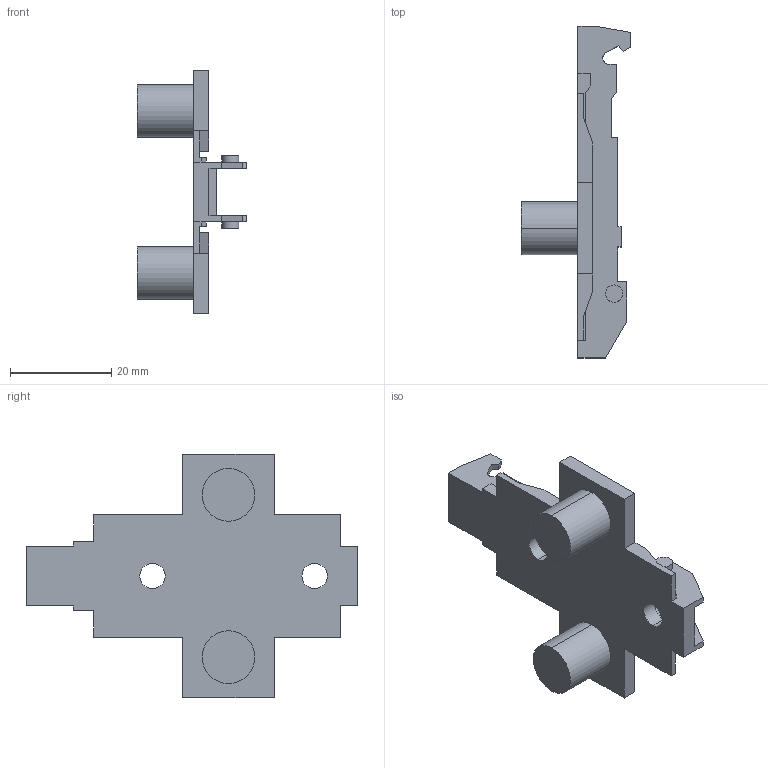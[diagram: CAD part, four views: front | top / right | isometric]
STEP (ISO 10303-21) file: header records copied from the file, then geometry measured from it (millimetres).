
FILE_DESCRIPTION (( 'STEP AP214' ), '1' );
FILE_NAME ('1D_Kreuzmontageplatte 37_32_10mm_Dübel_0.step', '2010-11-18T10:18:19', ( 'grass' ), ( '' ), 'SwSTEP 2.0', 'SolidWorks 2010', '' );
FILE_SCHEMA (( 'AUTOMOTIVE_DESIGN' ));
Length unit declared in the file: millimetre
Products named in the file (1): 1D_Kreuzmontageplatte 37_32_10mm_Dübel_0
Bounding box: 21.7 x 65.5 x 48 mm (x, y, z)
Volume: 7550.3 mm3; surface area: 6672.4 mm2
Topology: 1 solids, 1 shells, 114 faces, 314 edges, 208 vertices
Faces by surface type: plane 88, cylinder 22, cone 4
Entity records: 3636 total; most frequent: CARTESIAN_POINT 637, ORIENTED_EDGE 628, DIRECTION 592, EDGE_CURVE 314, LINE 266, VECTOR 266, VERTEX_POINT 208, AXIS2_PLACEMENT_3D 163
